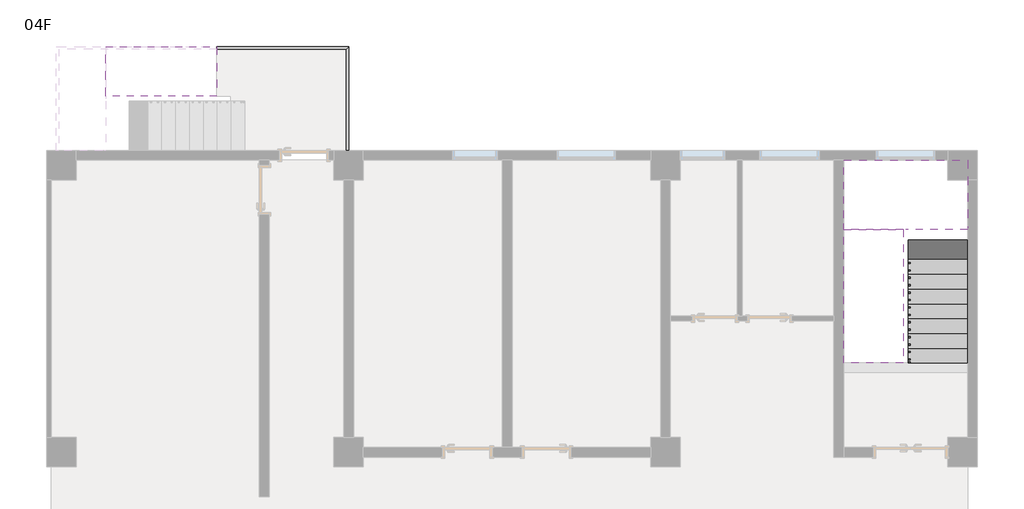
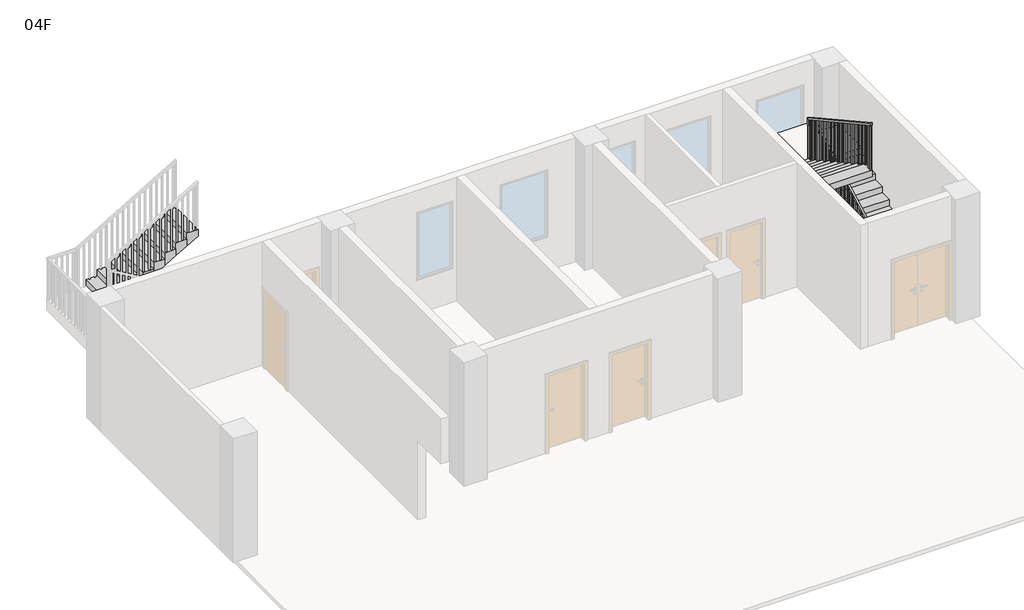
# One storey, part 3 of 3: 3 stair flights, 2 railings, 1 slab.
"""IFC4 building model written with IfcOpenShell, lengths in millimetres."""

from ifc_helpers import new_model, si_unit, frame, origin, place, context, project, spatial, polyline, outline, extrude, faceted_brep, element, save

model = new_model("IFC4")

# Units and contexts
model_context = context("Model", 3, world=origin())
ifc_project = project(units=[si_unit("LENGTHUNIT", "METRE", prefix="MILLI")], contexts=[model_context])

# Site, building, storey
site = spatial("IfcSite", under=ifc_project)
building = spatial("IfcBuilding", under=site)
storey = spatial("IfcBuildingStorey", under=building, Name="04F", Elevation=10500.0)

# Railings
placement = place(None, origin())
element("IfcRailing", 1, ObjectType="1100mm", at=placement, inside=storey, context=model_context, shape_type="SolidModel", body=[
    faceted_brep([(17300.4, 9300.0, 11765.0), (17300.4, 9300.0, 11707.9364389), (17350.4, 9300.0, 11707.9364389), (17350.4, 9300.0, 11765.0), (17300.4, 11925.4, 13208.97), (17300.4, 11975.4, 13179.4064389), (17350.4, 11975.4, 13179.4064389), (17350.4, 11925.4, 13208.97), (17300.4, 11925.4, 13250.0), (17300.4, 11975.4, 13200.0), (17350.4, 11975.4, 13200.0), (17350.4, 11925.4, 13250.0), (17300.4, 12000.4, 13250.0), (17300.4, 12000.4, 13200.0), (17350.4, 12050.4, 13200.0), (17350.4, 12050.4, 13250.0), (17225.4, 12000.4, 13250.0), (17225.4, 12000.4, 13200.0), (17225.4, 12050.4, 13200.0), (17225.4, 12050.4, 13250.0), (17199.6, 12000.4, 13250.0), (17199.6, 12050.4, 13250.0), (17149.6, 12050.4, 13200.0), (17149.6, 12000.4, 13200.0)], [[[0, 1, 2, 3]], [[1, 0, 4, 5]], [[2, 1, 5, 6]], [[3, 2, 6, 7]], [[0, 3, 7, 4]], [[5, 4, 8, 9]], [[6, 5, 9, 10]], [[7, 6, 10, 11]], [[4, 7, 11, 8]], [[9, 8, 12, 13]], [[10, 9, 13, 14]], [[11, 10, 14, 15]], [[8, 11, 15, 12]], [[13, 12, 16, 17]], [[14, 13, 17, 18]], [[15, 14, 18, 19]], [[12, 15, 19, 16]], [[20, 21, 22, 23]], [[17, 16, 20, 23]], [[18, 17, 23, 22]], [[19, 18, 22, 21]], [[16, 19, 21, 20]]]),
    faceted_brep([(17199.6, 12000.4, 13250.0), (17149.6, 12000.4, 13200.0), (17149.6, 12050.4, 13200.0), (17199.6, 12050.4, 13250.0), (17199.6, 12000.4, 13357.7164389), (17199.6, 12050.4, 13387.28), (17149.6, 12050.4, 13387.28), (17149.6, 12000.4, 13357.7164389)], [[[0, 1, 2, 3]], [[4, 5, 6, 7]], [[1, 0, 4, 7]], [[2, 1, 7, 6]], [[3, 2, 6, 5]], [[0, 3, 5, 4]]]),
    faceted_brep([(17199.6, 12050.4, 13387.28), (17199.6, 12000.4, 13357.7164389), (17149.6, 12000.4, 13357.7164389), (17149.6, 12050.4, 13387.28), (17199.6, 9300.0, 14900.0), (17149.6, 9300.0, 14900.0), (17149.6, 9300.0, 14842.9364389), (17199.6, 9300.0, 14842.9364389)], [[[0, 1, 2, 3]], [[4, 5, 6, 7]], [[1, 0, 4, 7]], [[2, 1, 7, 6]], [[3, 2, 6, 5]], [[0, 3, 5, 4]]]),
    extrude(outline(polyline([(9412.9, 13635.0), (9387.9, 13635.0), (9387.9, 14794.5914389), (9412.9, 14780.8414389), (9412.9, 13635.0)])), frame((17162.1, 0.0, 0.0), z_axis=(1.0, 0.0, 0.0), x_axis=(0.0, 1.0, 0.0)), (0.0, 0.0, 1.0), 25.0),
    extrude(outline(polyline([(9562.9, 13635.0), (9537.9, 13635.0), (9537.9, 14712.0914389), (9562.9, 14698.3414389), (9562.9, 13635.0)])), frame((17162.1, 0.0, 0.0), z_axis=(1.0, 0.0, 0.0), x_axis=(0.0, 1.0, 0.0)), (0.0, 0.0, 1.0), 25.0),
    extrude(outline(polyline([(9712.9, 13470.0), (9687.9, 13470.0), (9687.9, 14629.5914389), (9712.9, 14615.8414389), (9712.9, 13470.0)])), frame((17162.1, 0.0, 0.0), z_axis=(1.0, 0.0, 0.0), x_axis=(0.0, 1.0, 0.0)), (0.0, 0.0, 1.0), 25.0),
    extrude(outline(polyline([(9862.9, 13470.0), (9837.9, 13470.0), (9837.9, 14547.0914389), (9862.9, 14533.3414389), (9862.9, 13470.0)])), frame((17162.1, 0.0, 0.0), z_axis=(1.0, 0.0, 0.0), x_axis=(0.0, 1.0, 0.0)), (0.0, 0.0, 1.0), 25.0),
    extrude(outline(polyline([(10012.9, 13305.0), (9987.9, 13305.0), (9987.9, 14464.5914389), (10012.9, 14450.8414389), (10012.9, 13305.0)])), frame((17162.1, 0.0, 0.0), z_axis=(1.0, 0.0, 0.0), x_axis=(0.0, 1.0, 0.0)), (0.0, 0.0, 1.0), 25.0),
    extrude(outline(polyline([(10162.9, 13305.0), (10137.9, 13305.0), (10137.9, 14382.0914389), (10162.9, 14368.3414389), (10162.9, 13305.0)])), frame((17162.1, 0.0, 0.0), z_axis=(1.0, 0.0, 0.0), x_axis=(0.0, 1.0, 0.0)), (0.0, 0.0, 1.0), 25.0),
    extrude(outline(polyline([(10312.9, 13140.0), (10287.9, 13140.0), (10287.9, 14299.5914389), (10312.9, 14285.8414389), (10312.9, 13140.0)])), frame((17162.1, 0.0, 0.0), z_axis=(1.0, 0.0, 0.0), x_axis=(0.0, 1.0, 0.0)), (0.0, 0.0, 1.0), 25.0),
    extrude(outline(polyline([(10462.9, 13140.0), (10437.9, 13140.0), (10437.9, 14217.0914389), (10462.9, 14203.3414389), (10462.9, 13140.0)])), frame((17162.1, 0.0, 0.0), z_axis=(1.0, 0.0, 0.0), x_axis=(0.0, 1.0, 0.0)), (0.0, 0.0, 1.0), 25.0),
    extrude(outline(polyline([(10612.9, 12975.0), (10587.9, 12975.0), (10587.9, 14134.5914389), (10612.9, 14120.8414389), (10612.9, 12975.0)])), frame((17162.1, 0.0, 0.0), z_axis=(1.0, 0.0, 0.0), x_axis=(0.0, 1.0, 0.0)), (0.0, 0.0, 1.0), 25.0),
    extrude(outline(polyline([(10762.9, 12975.0), (10737.9, 12975.0), (10737.9, 14052.0914389), (10762.9, 14038.3414389), (10762.9, 12975.0)])), frame((17162.1, 0.0, 0.0), z_axis=(1.0, 0.0, 0.0), x_axis=(0.0, 1.0, 0.0)), (0.0, 0.0, 1.0), 25.0),
    extrude(outline(polyline([(10912.9, 12810.0), (10887.9, 12810.0), (10887.9, 13969.5914389), (10912.9, 13955.8414389), (10912.9, 12810.0)])), frame((17162.1, 0.0, 0.0), z_axis=(1.0, 0.0, 0.0), x_axis=(0.0, 1.0, 0.0)), (0.0, 0.0, 1.0), 25.0),
    extrude(outline(polyline([(11062.9, 12810.0), (11037.9, 12810.0), (11037.9, 13887.0914389), (11062.9, 13873.3414389), (11062.9, 12810.0)])), frame((17162.1, 0.0, 0.0), z_axis=(1.0, 0.0, 0.0), x_axis=(0.0, 1.0, 0.0)), (0.0, 0.0, 1.0), 25.0),
    extrude(outline(polyline([(11212.9, 12645.0), (11187.9, 12645.0), (11187.9, 13804.5914389), (11212.9, 13790.8414389), (11212.9, 12645.0)])), frame((17162.1, 0.0, 0.0), z_axis=(1.0, 0.0, 0.0), x_axis=(0.0, 1.0, 0.0)), (0.0, 0.0, 1.0), 25.0),
    extrude(outline(polyline([(11362.9, 12645.0), (11337.9, 12645.0), (11337.9, 13722.0914389), (11362.9, 13708.3414389), (11362.9, 12645.0)])), frame((17162.1, 0.0, 0.0), z_axis=(1.0, 0.0, 0.0), x_axis=(0.0, 1.0, 0.0)), (0.0, 0.0, 1.0), 25.0),
    extrude(outline(polyline([(11512.9, 12480.0), (11487.9, 12480.0), (11487.9, 13639.5914389), (11512.9, 13625.8414389), (11512.9, 12480.0)])), frame((17162.1, 0.0, 0.0), z_axis=(1.0, 0.0, 0.0), x_axis=(0.0, 1.0, 0.0)), (0.0, 0.0, 1.0), 25.0),
    extrude(outline(polyline([(11662.9, 12480.0), (11637.9, 12480.0), (11637.9, 13557.0914389), (11662.9, 13543.3414389), (11662.9, 12480.0)])), frame((17162.1, 0.0, 0.0), z_axis=(1.0, 0.0, 0.0), x_axis=(0.0, 1.0, 0.0)), (0.0, 0.0, 1.0), 25.0),
    extrude(outline(polyline([(11812.9, 12315.0), (11787.9, 12315.0), (11787.9, 13474.5914389), (11812.9, 13460.8414389), (11812.9, 12315.0)])), frame((17162.1, 0.0, 0.0), z_axis=(1.0, 0.0, 0.0), x_axis=(0.0, 1.0, 0.0)), (0.0, 0.0, 1.0), 25.0),
    extrude(outline(polyline([(11962.9, 12315.0), (11937.9, 12315.0), (11937.9, 13392.0914389), (11962.9, 13378.3414389), (11962.9, 12315.0)])), frame((17162.1, 0.0, 0.0), z_axis=(1.0, 0.0, 0.0), x_axis=(0.0, 1.0, 0.0)), (0.0, 0.0, 1.0), 25.0),
    extrude(outline(polyline([(17262.9, 12012.9), (17237.9, 12012.9), (17237.9, 12037.9), (17262.9, 12037.9), (17262.9, 12012.9)])), frame((0.0, 0.0, 12150.0), z_axis=(0.0, 0.0, 1.0), x_axis=(1.0, 0.0, 0.0)), (0.0, 0.0, 1.0), 1050.0),
    extrude(outline(polyline([(11912.5, 13144.8114389), (11937.5, 13158.5614389), (11937.5, 11985.0), (11912.5, 11985.0), (11912.5, 13144.8114389)])), frame((17312.9, 0.0, 0.0), z_axis=(1.0, 0.0, 0.0), x_axis=(0.0, 1.0, 0.0)), (0.0, 0.0, 1.0), 25.0),
    extrude(outline(polyline([(11762.5, 13062.3114389), (11787.5, 13076.0614389), (11787.5, 11985.0), (11762.5, 11985.0), (11762.5, 13062.3114389)])), frame((17312.9, 0.0, 0.0), z_axis=(1.0, 0.0, 0.0), x_axis=(0.0, 1.0, 0.0)), (0.0, 0.0, 1.0), 25.0),
    extrude(outline(polyline([(11612.5, 12979.8114389), (11637.5, 12993.5614389), (11637.5, 11820.0), (11612.5, 11820.0), (11612.5, 12979.8114389)])), frame((17312.9, 0.0, 0.0), z_axis=(1.0, 0.0, 0.0), x_axis=(0.0, 1.0, 0.0)), (0.0, 0.0, 1.0), 25.0),
    extrude(outline(polyline([(11462.5, 12897.3114389), (11487.5, 12911.0614389), (11487.5, 11820.0), (11462.5, 11820.0), (11462.5, 12897.3114389)])), frame((17312.9, 0.0, 0.0), z_axis=(1.0, 0.0, 0.0), x_axis=(0.0, 1.0, 0.0)), (0.0, 0.0, 1.0), 25.0),
    extrude(outline(polyline([(11312.5, 12814.8114389), (11337.5, 12828.5614389), (11337.5, 11655.0), (11312.5, 11655.0), (11312.5, 12814.8114389)])), frame((17312.9, 0.0, 0.0), z_axis=(1.0, 0.0, 0.0), x_axis=(0.0, 1.0, 0.0)), (0.0, 0.0, 1.0), 25.0),
    extrude(outline(polyline([(11162.5, 12732.3114389), (11187.5, 12746.0614389), (11187.5, 11655.0), (11162.5, 11655.0), (11162.5, 12732.3114389)])), frame((17312.9, 0.0, 0.0), z_axis=(1.0, 0.0, 0.0), x_axis=(0.0, 1.0, 0.0)), (0.0, 0.0, 1.0), 25.0),
    extrude(outline(polyline([(11012.5, 12649.8114389), (11037.5, 12663.5614389), (11037.5, 11490.0), (11012.5, 11490.0), (11012.5, 12649.8114389)])), frame((17312.9, 0.0, 0.0), z_axis=(1.0, 0.0, 0.0), x_axis=(0.0, 1.0, 0.0)), (0.0, 0.0, 1.0), 25.0),
    extrude(outline(polyline([(10862.5, 12567.3114389), (10887.5, 12581.0614389), (10887.5, 11490.0), (10862.5, 11490.0), (10862.5, 12567.3114389)])), frame((17312.9, 0.0, 0.0), z_axis=(1.0, 0.0, 0.0), x_axis=(0.0, 1.0, 0.0)), (0.0, 0.0, 1.0), 25.0),
    extrude(outline(polyline([(10712.5, 12484.8114389), (10737.5, 12498.5614389), (10737.5, 11325.0), (10712.5, 11325.0), (10712.5, 12484.8114389)])), frame((17312.9, 0.0, 0.0), z_axis=(1.0, 0.0, 0.0), x_axis=(0.0, 1.0, 0.0)), (0.0, 0.0, 1.0), 25.0),
    extrude(outline(polyline([(10562.5, 12402.3114389), (10587.5, 12416.0614389), (10587.5, 11325.0), (10562.5, 11325.0), (10562.5, 12402.3114389)])), frame((17312.9, 0.0, 0.0), z_axis=(1.0, 0.0, 0.0), x_axis=(0.0, 1.0, 0.0)), (0.0, 0.0, 1.0), 25.0),
    extrude(outline(polyline([(10412.5, 12319.8114389), (10437.5, 12333.5614389), (10437.5, 11160.0), (10412.5, 11160.0), (10412.5, 12319.8114389)])), frame((17312.9, 0.0, 0.0), z_axis=(1.0, 0.0, 0.0), x_axis=(0.0, 1.0, 0.0)), (0.0, 0.0, 1.0), 25.0),
    extrude(outline(polyline([(10262.5, 12237.3114389), (10287.5, 12251.0614389), (10287.5, 11160.0), (10262.5, 11160.0), (10262.5, 12237.3114389)])), frame((17312.9, 0.0, 0.0), z_axis=(1.0, 0.0, 0.0), x_axis=(0.0, 1.0, 0.0)), (0.0, 0.0, 1.0), 25.0),
    extrude(outline(polyline([(10112.5, 12154.8114389), (10137.5, 12168.5614389), (10137.5, 10995.0), (10112.5, 10995.0), (10112.5, 12154.8114389)])), frame((17312.9, 0.0, 0.0), z_axis=(1.0, 0.0, 0.0), x_axis=(0.0, 1.0, 0.0)), (0.0, 0.0, 1.0), 25.0),
    extrude(outline(polyline([(9962.5, 12072.3114389), (9987.5, 12086.0614389), (9987.5, 10995.0), (9962.5, 10995.0), (9962.5, 12072.3114389)])), frame((17312.9, 0.0, 0.0), z_axis=(1.0, 0.0, 0.0), x_axis=(0.0, 1.0, 0.0)), (0.0, 0.0, 1.0), 25.0),
    extrude(outline(polyline([(9812.5, 11989.8114389), (9837.5, 12003.5614389), (9837.5, 10830.0), (9812.5, 10830.0), (9812.5, 11989.8114389)])), frame((17312.9, 0.0, 0.0), z_axis=(1.0, 0.0, 0.0), x_axis=(0.0, 1.0, 0.0)), (0.0, 0.0, 1.0), 25.0),
    extrude(outline(polyline([(9662.5, 11907.3114389), (9687.5, 11921.0614389), (9687.5, 10830.0), (9662.5, 10830.0), (9662.5, 11907.3114389)])), frame((17312.9, 0.0, 0.0), z_axis=(1.0, 0.0, 0.0), x_axis=(0.0, 1.0, 0.0)), (0.0, 0.0, 1.0), 25.0),
    extrude(outline(polyline([(9512.5, 11824.8114389), (9537.5, 11838.5614389), (9537.5, 10665.0), (9512.5, 10665.0), (9512.5, 11824.8114389)])), frame((17312.9, 0.0, 0.0), z_axis=(1.0, 0.0, 0.0), x_axis=(0.0, 1.0, 0.0)), (0.0, 0.0, 1.0), 25.0),
    extrude(outline(polyline([(9362.5, 11742.3114389), (9387.5, 11756.0614389), (9387.5, 10665.0), (9362.5, 10665.0), (9362.5, 11742.3114389)])), frame((17312.9, 0.0, 0.0), z_axis=(1.0, 0.0, 0.0), x_axis=(0.0, 1.0, 0.0)), (0.0, 0.0, 1.0), 25.0),
    extrude(outline(polyline([(17187.1, 12037.9), (17187.1, 12012.9), (17162.1, 12012.9), (17162.1, 12037.9), (17187.1, 12037.9)])), frame((0.0, 0.0, 12150.0), z_axis=(0.0, 0.0, 1.0), x_axis=(1.0, 0.0, 0.0)), (0.0, 0.0, 1.0), 1050.0),
    extrude(outline(polyline([(17312.9, 12012.9), (17312.9, 12037.9), (17337.9, 12037.9), (17337.9, 12012.9), (17312.9, 12012.9)])), frame((0.0, 0.0, 12150.0), z_axis=(0.0, 0.0, 1.0), x_axis=(1.0, 0.0, 0.0)), (0.0, 0.0, 1.0), 1050.0),
    extrude(outline(polyline([(17312.9, 11987.5), (17312.9, 12012.5), (17337.9, 12012.5), (17337.9, 11987.5), (17312.9, 11987.5)])), frame((0.0, 0.0, 12150.0), z_axis=(0.0, 0.0, 1.0), x_axis=(1.0, 0.0, 0.0)), (0.0, 0.0, 1.0), 1050.0),
    extrude(outline(polyline([(9325.0, 13635.0), (9300.0, 13635.0), (9300.0, 14842.9364389), (9325.0, 14829.1864389), (9325.0, 13635.0)])), frame((17162.1, 0.0, 0.0), z_axis=(1.0, 0.0, 0.0), x_axis=(0.0, 1.0, 0.0)), (0.0, 0.0, 1.0), 25.0),
    extrude(outline(polyline([(9300.0, 11707.9364389), (9325.0, 11721.6864389), (9325.0, 10665.0), (9300.0, 10665.0), (9300.0, 11707.9364389)])), frame((17312.9, 0.0, 0.0), z_axis=(1.0, 0.0, 0.0), x_axis=(0.0, 1.0, 0.0)), (0.0, 0.0, 1.0), 25.0),
])
element("IfcRailing", 2, ObjectType="1100mm", at=placement, inside=storey, context=model_context, shape_type="SolidModel", body=[
    faceted_brep([(3340.0, 15699.6, 11600.0), (3340.0, 15699.6, 11550.0), (3340.0, 15649.6, 11550.0), (3340.0, 15649.6, 11600.0), (6000.0, 15699.6, 11600.0), (6000.0, 15699.6, 11550.0), (5950.0, 15649.6, 11550.0), (5950.0, 15649.6, 11600.0), (6000.0, 13600.0, 11600.0), (5950.0, 13600.0, 11600.0), (5950.0, 13600.0, 11550.0), (6000.0, 13600.0, 11550.0)], [[[0, 1, 2, 3]], [[1, 0, 4, 5]], [[2, 1, 5, 6]], [[3, 2, 6, 7]], [[0, 3, 7, 4]], [[8, 9, 10, 11]], [[5, 4, 8, 11]], [[6, 5, 11, 10]], [[7, 6, 10, 9]], [[4, 7, 9, 8]]]),
    extrude(outline(polyline([(5962.5, 13762.1), (5987.5, 13762.1), (5987.5, 13737.1), (5962.5, 13737.1), (5962.5, 13762.1)])), frame((0.0, 0.0, 10500.0), z_axis=(0.0, 0.0, 1.0), x_axis=(1.0, 0.0, 0.0)), (0.0, 0.0, 1.0), 1050.0),
    extrude(outline(polyline([(5962.5, 14037.1), (5987.5, 14037.1), (5987.5, 14012.1), (5962.5, 14012.1), (5962.5, 14037.1)])), frame((0.0, 0.0, 10500.0), z_axis=(0.0, 0.0, 1.0), x_axis=(1.0, 0.0, 0.0)), (0.0, 0.0, 1.0), 1050.0),
    extrude(outline(polyline([(5962.5, 14312.1), (5987.5, 14312.1), (5987.5, 14287.1), (5962.5, 14287.1), (5962.5, 14312.1)])), frame((0.0, 0.0, 10500.0), z_axis=(0.0, 0.0, 1.0), x_axis=(1.0, 0.0, 0.0)), (0.0, 0.0, 1.0), 1050.0),
    extrude(outline(polyline([(5962.5, 14587.1), (5987.5, 14587.1), (5987.5, 14562.1), (5962.5, 14562.1), (5962.5, 14587.1)])), frame((0.0, 0.0, 10500.0), z_axis=(0.0, 0.0, 1.0), x_axis=(1.0, 0.0, 0.0)), (0.0, 0.0, 1.0), 1050.0),
    extrude(outline(polyline([(5962.5, 14862.1), (5987.5, 14862.1), (5987.5, 14837.1), (5962.5, 14837.1), (5962.5, 14862.1)])), frame((0.0, 0.0, 10500.0), z_axis=(0.0, 0.0, 1.0), x_axis=(1.0, 0.0, 0.0)), (0.0, 0.0, 1.0), 1050.0),
    extrude(outline(polyline([(5962.5, 15137.1), (5987.5, 15137.1), (5987.5, 15112.1), (5962.5, 15112.1), (5962.5, 15137.1)])), frame((0.0, 0.0, 10500.0), z_axis=(0.0, 0.0, 1.0), x_axis=(1.0, 0.0, 0.0)), (0.0, 0.0, 1.0), 1050.0),
    extrude(outline(polyline([(5962.5, 15412.1), (5987.5, 15412.1), (5987.5, 15387.1), (5962.5, 15387.1), (5962.5, 15412.1)])), frame((0.0, 0.0, 10500.0), z_axis=(0.0, 0.0, 1.0), x_axis=(1.0, 0.0, 0.0)), (0.0, 0.0, 1.0), 1050.0),
    extrude(outline(polyline([(5802.5, 15662.1), (5802.5, 15687.1), (5827.5, 15687.1), (5827.5, 15662.1), (5802.5, 15662.1)])), frame((0.0, 0.0, 10500.0), z_axis=(0.0, 0.0, 1.0), x_axis=(1.0, 0.0, 0.0)), (0.0, 0.0, 1.0), 1050.0),
    extrude(outline(polyline([(5527.5, 15662.1), (5527.5, 15687.1), (5552.5, 15687.1), (5552.5, 15662.1), (5527.5, 15662.1)])), frame((0.0, 0.0, 10500.0), z_axis=(0.0, 0.0, 1.0), x_axis=(1.0, 0.0, 0.0)), (0.0, 0.0, 1.0), 1050.0),
    extrude(outline(polyline([(5252.5, 15662.1), (5252.5, 15687.1), (5277.5, 15687.1), (5277.5, 15662.1), (5252.5, 15662.1)])), frame((0.0, 0.0, 10500.0), z_axis=(0.0, 0.0, 1.0), x_axis=(1.0, 0.0, 0.0)), (0.0, 0.0, 1.0), 1050.0),
    extrude(outline(polyline([(4977.5, 15662.1), (4977.5, 15687.1), (5002.5, 15687.1), (5002.5, 15662.1), (4977.5, 15662.1)])), frame((0.0, 0.0, 10500.0), z_axis=(0.0, 0.0, 1.0), x_axis=(1.0, 0.0, 0.0)), (0.0, 0.0, 1.0), 1050.0),
    extrude(outline(polyline([(4702.5, 15662.1), (4702.5, 15687.1), (4727.5, 15687.1), (4727.5, 15662.1), (4702.5, 15662.1)])), frame((0.0, 0.0, 10500.0), z_axis=(0.0, 0.0, 1.0), x_axis=(1.0, 0.0, 0.0)), (0.0, 0.0, 1.0), 1050.0),
    extrude(outline(polyline([(4427.5, 15662.1), (4427.5, 15687.1), (4452.5, 15687.1), (4452.5, 15662.1), (4427.5, 15662.1)])), frame((0.0, 0.0, 10500.0), z_axis=(0.0, 0.0, 1.0), x_axis=(1.0, 0.0, 0.0)), (0.0, 0.0, 1.0), 1050.0),
    extrude(outline(polyline([(4152.5, 15662.1), (4152.5, 15687.1), (4177.5, 15687.1), (4177.5, 15662.1), (4152.5, 15662.1)])), frame((0.0, 0.0, 10500.0), z_axis=(0.0, 0.0, 1.0), x_axis=(1.0, 0.0, 0.0)), (0.0, 0.0, 1.0), 1050.0),
    extrude(outline(polyline([(3877.5, 15662.1), (3877.5, 15687.1), (3902.5, 15687.1), (3902.5, 15662.1), (3877.5, 15662.1)])), frame((0.0, 0.0, 10500.0), z_axis=(0.0, 0.0, 1.0), x_axis=(1.0, 0.0, 0.0)), (0.0, 0.0, 1.0), 1050.0),
    extrude(outline(polyline([(3602.5, 15662.1), (3602.5, 15687.1), (3627.5, 15687.1), (3627.5, 15662.1), (3602.5, 15662.1)])), frame((0.0, 0.0, 10500.0), z_axis=(0.0, 0.0, 1.0), x_axis=(1.0, 0.0, 0.0)), (0.0, 0.0, 1.0), 1050.0),
    extrude(outline(polyline([(5962.5, 15662.1), (5962.5, 15687.1), (5987.5, 15687.1), (5987.5, 15662.1), (5962.5, 15662.1)])), frame((0.0, 0.0, 10500.0), z_axis=(0.0, 0.0, 1.0), x_axis=(1.0, 0.0, 0.0)), (0.0, 0.0, 1.0), 1050.0),
    extrude(outline(polyline([(5962.5, 13625.0), (5987.5, 13625.0), (5987.5, 13600.0), (5962.5, 13600.0), (5962.5, 13625.0)])), frame((0.0, 0.0, 10500.0), z_axis=(0.0, 0.0, 1.0), x_axis=(1.0, 0.0, 0.0)), (0.0, 0.0, 1.0), 1050.0),
    extrude(outline(polyline([(3340.0, 15662.1), (3340.0, 15687.1), (3365.0, 15687.1), (3365.0, 15662.1), (3340.0, 15662.1)])), frame((0.0, 0.0, 10500.0), z_axis=(0.0, 0.0, 1.0), x_axis=(1.0, 0.0, 0.0)), (0.0, 0.0, 1.0), 1050.0),
])

# Slab
element("IfcSlab", 3, ObjectType="300mm 厚度", at=placement, inside=storey, context=model_context, shape_type="Brep", body=[
    faceted_brep([(17300.0, 12000.0, 12150.0), (18500.0, 12000.0, 12150.0), (18500.0, 12065.8012421, 12150.0), (18500.0, 13400.0, 12150.0), (16000.0, 13400.0, 12150.0), (16000.0, 12234.1987579, 12150.0), (16000.0, 12000.0, 12150.0), (17200.0, 12000.0, 12150.0), (17300.0, 12000.0, 11850.0), (17300.0, 12000.0, 11813.8093168), (18500.0, 12000.0, 11813.8093168), (18500.0, 12000.0, 11985.0), (18500.0, 12065.8012421, 11850.0), (18500.0, 13400.0, 11850.0), (16000.0, 13400.0, 11850.0), (16000.0, 12234.1987579, 11850.0), (16000.0, 12000.0, 11978.8093168), (17200.0, 12000.0, 11978.8093168), (17200.0, 12000.0, 11850.0), (17200.0, 12234.1987579, 11850.0), (17300.0, 12065.8012421, 11850.0)], [[[0, 1, 2, 3, 4, 5, 6, 7]], [[1, 0, 8, 9, 10, 11]], [[1, 11, 10, 12, 13, 3, 2]], [[4, 3, 13, 14]], [[4, 14, 15, 16, 6, 5]], [[7, 6, 16, 17]], [[0, 7, 17, 18, 8]], [[18, 19, 15, 14, 13, 12, 20, 8]], [[19, 18, 17]], [[20, 12, 10, 9]], [[8, 20, 9]], [[15, 19, 17, 16]]]),
])

# Stair flights
element("IfcStairFlight", 4, ObjectType="150mm 结构深度", at=placement, inside=storey, context=model_context, shape_type="Brep", body=[
    faceted_brep([(17300.0, 9600.0, 10665.0), (17300.0, 9300.0, 10665.0), (18500.0, 9300.0, 10665.0), (18500.0, 9600.0, 10665.0), (17300.0, 9600.0, 10500.0), (17300.0, 9300.0, 10500.0), (18500.0, 9300.0, 10500.0), (18500.0, 9600.0, 10500.0), (17300.0, 9900.0, 10830.0), (17300.0, 9600.0, 10830.0), (18500.0, 9600.0, 10830.0), (18500.0, 9900.0, 10830.0), (17300.0, 9900.0, 10658.8093168), (17300.0, 9611.2557876, 10500.0), (18500.0, 9611.2557876, 10500.0), (18500.0, 9900.0, 10658.8093168), (17300.0, 10200.0, 10995.0), (17300.0, 9900.0, 10995.0), (18500.0, 9900.0, 10995.0), (18500.0, 10200.0, 10995.0), (17300.0, 10200.0, 10823.8093168), (18500.0, 10200.0, 10823.8093168), (17300.0, 10500.0, 11160.0), (17300.0, 10200.0, 11160.0), (18500.0, 10200.0, 11160.0), (18500.0, 10500.0, 11160.0), (17300.0, 10500.0, 10988.8093168), (18500.0, 10500.0, 10988.8093168), (17300.0, 10800.0, 11325.0), (17300.0, 10500.0, 11325.0), (18500.0, 10500.0, 11325.0), (18500.0, 10800.0, 11325.0), (17300.0, 10800.0, 11153.8093168), (18500.0, 10800.0, 11153.8093168), (17300.0, 11100.0, 11490.0), (17300.0, 10800.0, 11490.0), (18500.0, 10800.0, 11490.0), (18500.0, 11100.0, 11490.0), (17300.0, 11100.0, 11318.8093168), (18500.0, 11100.0, 11318.8093168), (17300.0, 11400.0, 11655.0), (17300.0, 11100.0, 11655.0), (18500.0, 11100.0, 11655.0), (18500.0, 11400.0, 11655.0), (17300.0, 11400.0, 11483.8093168), (18500.0, 11400.0, 11483.8093168), (17300.0, 11700.0, 11820.0), (17300.0, 11400.0, 11820.0), (18500.0, 11400.0, 11820.0), (18500.0, 11700.0, 11820.0), (17300.0, 11700.0, 11648.8093168), (18500.0, 11700.0, 11648.8093168), (17300.0, 12000.0, 11985.0), (17300.0, 11700.0, 11985.0), (18500.0, 11700.0, 11985.0), (18500.0, 12000.0, 11985.0), (17300.0, 12000.0, 11850.0), (17300.0, 12000.0, 11813.8093168), (18500.0, 12000.0, 11813.8093168)], [[[0, 1, 2, 3]], [[1, 0, 4, 5]], [[2, 1, 5, 6]], [[3, 2, 6, 7]], [[8, 9, 10, 11]], [[4, 0, 9, 8, 12, 13]], [[0, 3, 10, 9]], [[3, 7, 14, 15, 11, 10]], [[16, 17, 18, 19]], [[17, 16, 20, 12, 8]], [[8, 11, 18, 17]], [[19, 18, 11, 15, 21]], [[22, 23, 24, 25]], [[23, 22, 26, 20, 16]], [[16, 19, 24, 23]], [[25, 24, 19, 21, 27]], [[28, 29, 30, 31]], [[29, 28, 32, 26, 22]], [[22, 25, 30, 29]], [[31, 30, 25, 27, 33]], [[34, 35, 36, 37]], [[35, 34, 38, 32, 28]], [[28, 31, 36, 35]], [[37, 36, 31, 33, 39]], [[40, 41, 42, 43]], [[41, 40, 44, 38, 34]], [[34, 37, 42, 41]], [[43, 42, 37, 39, 45]], [[46, 47, 48, 49]], [[47, 46, 50, 44, 40]], [[40, 43, 48, 47]], [[49, 48, 43, 45, 51]], [[52, 53, 54, 55]], [[53, 52, 56, 57, 50, 46]], [[46, 49, 54, 53]], [[55, 54, 49, 51, 58]], [[52, 55, 58, 57, 56]], [[5, 4, 13, 14, 7, 6]], [[14, 13, 12, 20, 26, 32, 38, 44, 50, 57, 58, 51, 45, 39, 33, 27, 21, 15]]]),
])
element("IfcStairFlight", 5, ObjectType="150mm 结构深度", at=placement, inside=storey, context=model_context, shape_type="Brep", body=[
    faceted_brep([(17200.0, 11700.0, 12315.0), (17200.0, 12000.0, 12315.0), (16000.0, 12000.0, 12315.0), (16000.0, 11700.0, 12315.0), (17200.0, 11700.0, 12143.8093168), (17200.0, 12000.0, 11978.8093168), (16000.0, 12000.0, 11978.8093168), (16000.0, 12000.0, 12150.0), (16000.0, 11700.0, 12143.8093168), (17200.0, 11400.0, 12480.0), (17200.0, 11700.0, 12480.0), (16000.0, 11700.0, 12480.0), (16000.0, 11400.0, 12480.0), (17200.0, 11400.0, 12308.8093168), (16000.0, 11400.0, 12308.8093168), (17200.0, 11100.0, 12645.0), (17200.0, 11400.0, 12645.0), (16000.0, 11400.0, 12645.0), (16000.0, 11100.0, 12645.0), (17200.0, 11100.0, 12473.8093168), (16000.0, 11100.0, 12473.8093168), (17200.0, 10800.0, 12810.0), (17200.0, 11100.0, 12810.0), (16000.0, 11100.0, 12810.0), (16000.0, 10800.0, 12810.0), (17200.0, 10800.0, 12638.8093168), (16000.0, 10800.0, 12638.8093168), (17200.0, 10500.0, 12975.0), (17200.0, 10800.0, 12975.0), (16000.0, 10800.0, 12975.0), (16000.0, 10500.0, 12975.0), (17200.0, 10500.0, 12803.8093168), (16000.0, 10500.0, 12803.8093168), (17200.0, 10200.0, 13140.0), (17200.0, 10500.0, 13140.0), (16000.0, 10500.0, 13140.0), (16000.0, 10200.0, 13140.0), (17200.0, 10200.0, 12968.8093168), (16000.0, 10200.0, 12968.8093168), (17200.0, 9900.0, 13305.0), (17200.0, 10200.0, 13305.0), (16000.0, 10200.0, 13305.0), (16000.0, 9900.0, 13305.0), (17200.0, 9900.0, 13133.8093168), (16000.0, 9900.0, 13133.8093168), (17200.0, 9600.0, 13470.0), (17200.0, 9900.0, 13470.0), (16000.0, 9900.0, 13470.0), (16000.0, 9600.0, 13470.0), (17200.0, 9600.0, 13298.8093168), (16000.0, 9600.0, 13298.8093168), (17200.0, 9300.0, 13635.0), (17200.0, 9600.0, 13635.0), (16000.0, 9600.0, 13635.0), (16000.0, 9300.0, 13635.0), (17200.0, 9300.0, 13463.8093168), (16000.0, 9300.0, 13463.8093168)], [[[0, 1, 2, 3]], [[1, 0, 4, 5]], [[2, 1, 5, 6, 7]], [[3, 2, 7, 6, 8]], [[9, 10, 11, 12]], [[10, 9, 13, 4, 0]], [[11, 10, 0, 3]], [[12, 11, 3, 8, 14]], [[15, 16, 17, 18]], [[16, 15, 19, 13, 9]], [[17, 16, 9, 12]], [[18, 17, 12, 14, 20]], [[21, 22, 23, 24]], [[22, 21, 25, 19, 15]], [[23, 22, 15, 18]], [[24, 23, 18, 20, 26]], [[27, 28, 29, 30]], [[28, 27, 31, 25, 21]], [[29, 28, 21, 24]], [[30, 29, 24, 26, 32]], [[33, 34, 35, 36]], [[34, 33, 37, 31, 27]], [[35, 34, 27, 30]], [[36, 35, 30, 32, 38]], [[39, 40, 41, 42]], [[40, 39, 43, 37, 33]], [[41, 40, 33, 36]], [[42, 41, 36, 38, 44]], [[45, 46, 47, 48]], [[46, 45, 49, 43, 39]], [[47, 46, 39, 42]], [[48, 47, 42, 44, 50]], [[51, 52, 53, 54]], [[52, 51, 55, 49, 45]], [[53, 52, 45, 48]], [[54, 53, 48, 50, 56]], [[51, 54, 56, 55]], [[5, 4, 13, 19, 25, 31, 37, 43, 49, 55, 56, 50, 44, 38, 32, 26, 20, 14, 8, 6]]]),
])
element("IfcStairFlight", 6, ObjectType="150mm 结构深度", at=placement, inside=storey, context=model_context, shape_type="Brep", body=[
    faceted_brep([(1380.0, 15700.0, 12480.0), (1100.0, 15700.0, 12480.0), (1100.0, 14700.0, 12480.0), (1380.0, 14700.0, 12480.0), (1380.0, 15700.0, 12305.8928571), (1100.0, 15700.0, 12140.8928571), (1100.0, 15700.0, 12315.0), (1100.0, 14700.0, 12140.8928571), (1380.0, 14700.0, 12305.8928571), (1660.0, 15700.0, 12645.0), (1380.0, 15700.0, 12645.0), (1380.0, 14700.0, 12645.0), (1660.0, 14700.0, 12645.0), (1660.0, 15700.0, 12470.8928571), (1660.0, 14700.0, 12470.8928571), (1940.0, 15700.0, 12810.0), (1660.0, 15700.0, 12810.0), (1660.0, 14700.0, 12810.0), (1940.0, 14700.0, 12810.0), (1940.0, 15700.0, 12635.8928571), (1940.0, 14700.0, 12635.8928571), (2220.0, 15700.0, 12975.0), (1940.0, 15700.0, 12975.0), (1940.0, 14700.0, 12975.0), (2220.0, 14700.0, 12975.0), (2220.0, 15700.0, 12800.8928571), (2220.0, 14700.0, 12800.8928571), (2500.0, 15700.0, 13140.0), (2220.0, 15700.0, 13140.0), (2220.0, 14700.0, 13140.0), (2500.0, 14700.0, 13140.0), (2500.0, 15700.0, 12965.8928571), (2500.0, 14700.0, 12965.8928571), (2780.0, 15700.0, 13305.0), (2500.0, 15700.0, 13305.0), (2500.0, 14700.0, 13305.0), (2780.0, 14700.0, 13305.0), (2780.0, 15700.0, 13130.8928571), (2780.0, 14700.0, 13130.8928571), (3060.0, 15700.0, 13470.0), (2780.0, 15700.0, 13470.0), (2780.0, 14700.0, 13470.0), (3060.0, 14700.0, 13470.0), (3060.0, 15700.0, 13295.8928571), (3060.0, 14700.0, 13295.8928571), (3340.0, 15700.0, 13635.0), (3060.0, 15700.0, 13635.0), (3060.0, 14700.0, 13635.0), (3340.0, 14700.0, 13635.0), (3340.0, 15700.0, 13460.8928571), (3340.0, 14700.0, 13460.8928571)], [[[0, 1, 2, 3]], [[1, 0, 4, 5, 6]], [[2, 1, 6, 5, 7]], [[3, 2, 7, 8]], [[9, 10, 11, 12]], [[10, 9, 13, 4, 0]], [[11, 10, 0, 3]], [[12, 11, 3, 8, 14]], [[15, 16, 17, 18]], [[16, 15, 19, 13, 9]], [[17, 16, 9, 12]], [[18, 17, 12, 14, 20]], [[21, 22, 23, 24]], [[22, 21, 25, 19, 15]], [[23, 22, 15, 18]], [[24, 23, 18, 20, 26]], [[27, 28, 29, 30]], [[28, 27, 31, 25, 21]], [[29, 28, 21, 24]], [[30, 29, 24, 26, 32]], [[33, 34, 35, 36]], [[34, 33, 37, 31, 27]], [[35, 34, 27, 30]], [[36, 35, 30, 32, 38]], [[39, 40, 41, 42]], [[40, 39, 43, 37, 33]], [[41, 40, 33, 36]], [[42, 41, 36, 38, 44]], [[45, 46, 47, 48]], [[46, 45, 49, 43, 39]], [[47, 46, 39, 42]], [[48, 47, 42, 44, 50]], [[45, 48, 50, 49]], [[5, 4, 13, 19, 25, 31, 37, 43, 49, 50, 44, 38, 32, 26, 20, 14, 8, 7]]]),
])

save(model, "model.ifc")
